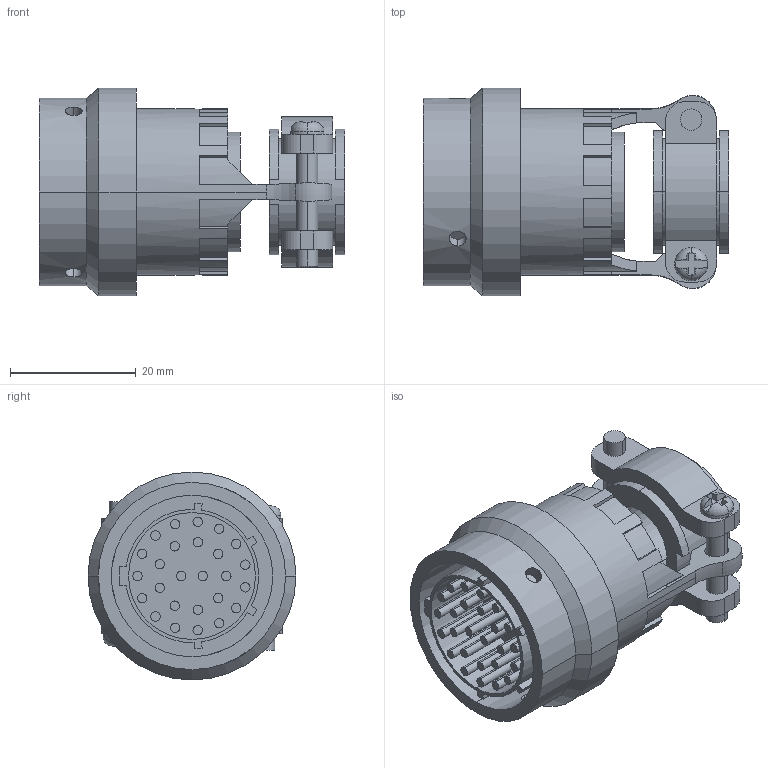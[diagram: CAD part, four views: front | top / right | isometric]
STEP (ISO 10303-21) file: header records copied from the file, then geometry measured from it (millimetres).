
FILE_DESCRIPTION (( 'STEP AP214' ), '1' );
FILE_NAME ('MS3116F16-26P.STEP', '2021-06-10T02:04:30', ( '微软用户' ), ( '微软中国' ), 'SwSTEP 2.0', 'SolidWorks 2018', '' );
FILE_SCHEMA (( 'AUTOMOTIVE_DESIGN' ));
Length unit declared in the file: millimetre
Products named in the file (1): MS3116F16-26P
Bounding box: 48.67 x 33.1 x 33.1 mm (x, y, z)
Volume: 19070.6 mm3; surface area: 12300.9 mm2
Topology: 2 solids, 2 shells, 311 faces, 798 edges, 529 vertices
Faces by surface type: plane 153, cylinder 135, torus 14, cone 9
Entity records: 9974 total; most frequent: CARTESIAN_POINT 2061, DIRECTION 1733, ORIENTED_EDGE 1596, EDGE_CURVE 798, AXIS2_PLACEMENT_3D 669, VERTEX_POINT 529, LINE 395, VECTOR 395
